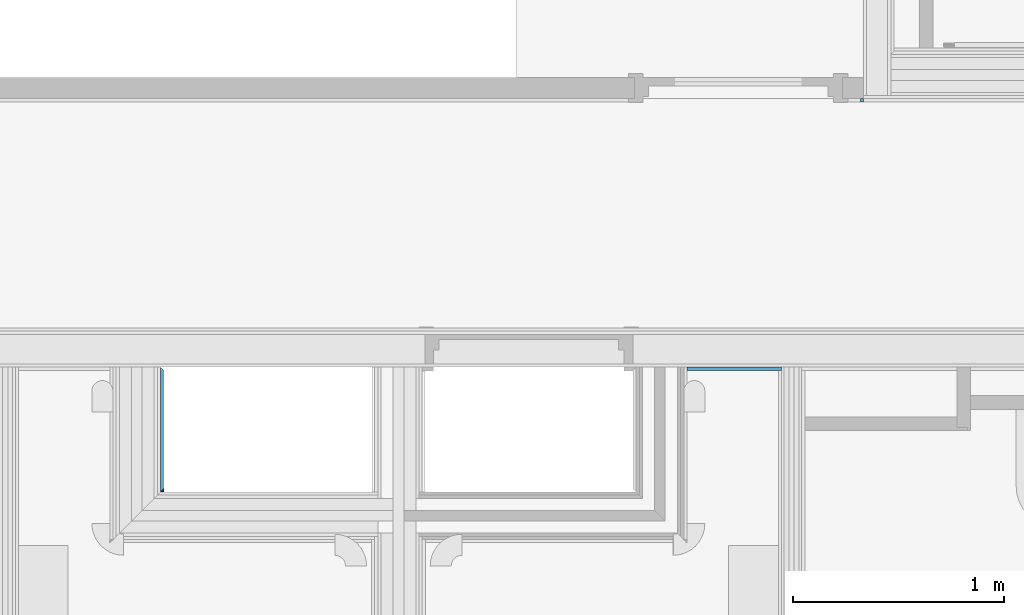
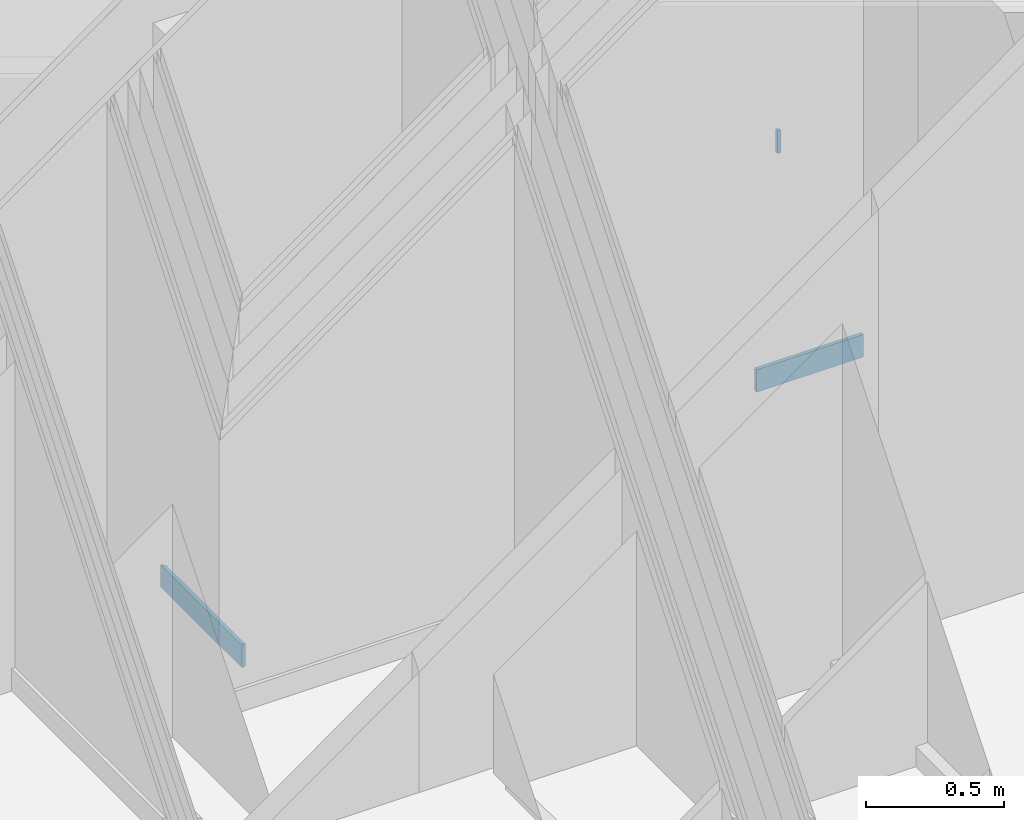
# One storey, part 31 of 85: 4 building element parts, 4 elements without a shape of their own.
"""IFC2X3 building model written with IfcOpenShell, lengths in metres."""

from ifc_helpers import new_model, entity, si_unit, converted_unit, derived_unit, money_unit, direction, frame, frame_2d, origin_with_axes, place, context, subcontext, project, spatial, polyline, rectangle, outline, extrude, material, type_object, element, aggregate, save


model = new_model("IFC2X3")

# Units and contexts
model_context = context("Model", 3, precision=1e-05, world=origin_with_axes(), true_north=direction((0.0, 1.0)))
body_context = subcontext(model_context, "Body", "Model", "MODEL_VIEW", scale=1.0)
ifc_project = project(units=[si_unit("LENGTHUNIT", "METRE"), si_unit("AREAUNIT", "SQUARE_METRE"), si_unit("VOLUMEUNIT", "CUBIC_METRE"), si_unit("ABSORBEDDOSEUNIT", "GRAY"), si_unit("AMOUNTOFSUBSTANCEUNIT", "MOLE"), si_unit("DOSEEQUIVALENTUNIT", "SIEVERT"), si_unit("ELECTRICCAPACITANCEUNIT", "FARAD"), si_unit("ELECTRICCHARGEUNIT", "COULOMB"), si_unit("ELECTRICCONDUCTANCEUNIT", "SIEMENS"), si_unit("ELECTRICCURRENTUNIT", "AMPERE"), si_unit("ELECTRICRESISTANCEUNIT", "OHM"), si_unit("ELECTRICVOLTAGEUNIT", "VOLT"), si_unit("ENERGYUNIT", "JOULE"), si_unit("FORCEUNIT", "NEWTON"), si_unit("FREQUENCYUNIT", "HERTZ"), si_unit("ILLUMINANCEUNIT", "LUX"), si_unit("INDUCTANCEUNIT", "HENRY"), si_unit("LUMINOUSFLUXUNIT", "LUMEN"), si_unit("LUMINOUSINTENSITYUNIT", "CANDELA"), si_unit("MAGNETICFLUXDENSITYUNIT", "TESLA"), si_unit("MAGNETICFLUXUNIT", "WEBER"), si_unit("MASSUNIT", "GRAM"), converted_unit("PLANEANGLEUNIT", "degree", entity("IfcReal", 0.0174532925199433), si_unit("PLANEANGLEUNIT", "RADIAN"), dimensions=[0, 0, 0, 0, 0, 0, 0]), si_unit("POWERUNIT", "WATT"), si_unit("PRESSUREUNIT", "PASCAL"), si_unit("RADIOACTIVITYUNIT", "BECQUEREL"), si_unit("SOLIDANGLEUNIT", "STERADIAN"), si_unit("THERMODYNAMICTEMPERATUREUNIT", "KELVIN"), si_unit("TIMEUNIT", "SECOND"), derived_unit("ACCELERATIONUNIT", [(si_unit("LENGTHUNIT", "METRE"), 1), (si_unit("TIMEUNIT", "SECOND"), -2)]), derived_unit("ANGULARVELOCITYUNIT", [(converted_unit("PLANEANGLEUNIT", "degree", entity("IfcReal", 0.0174532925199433), si_unit("PLANEANGLEUNIT", "RADIAN"), dimensions=[0, 0, 0, 0, 0, 0, 0]), 1), (si_unit("TIMEUNIT", "SECOND"), -1)]), derived_unit("CURVATUREUNIT", [(converted_unit("PLANEANGLEUNIT", "degree", entity("IfcReal", 0.0174532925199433), si_unit("PLANEANGLEUNIT", "RADIAN"), dimensions=[0, 0, 0, 0, 0, 0, 0]), 1), (si_unit("LENGTHUNIT", "METRE"), -1)]), derived_unit("DYNAMICVISCOSITYUNIT", [(si_unit("PRESSUREUNIT", "PASCAL"), 1), (si_unit("TIMEUNIT", "SECOND"), 1)]), derived_unit("HEATFLUXDENSITYUNIT", [(si_unit("POWERUNIT", "WATT"), 1), (si_unit("LENGTHUNIT", "METRE"), -2)]), derived_unit("HEATINGVALUEUNIT", [(si_unit("ENERGYUNIT", "JOULE"), 1), (si_unit("MASSUNIT", "GRAM"), -1)]), derived_unit("INTEGERCOUNTRATEUNIT", [(si_unit("TIMEUNIT", "SECOND"), -1)]), derived_unit("IONCONCENTRATIONUNIT", [(si_unit("MASSUNIT", "GRAM"), 1), (si_unit("VOLUMEUNIT", "CUBIC_METRE"), -1)]), derived_unit("ISOTHERMALMOISTURECAPACITYUNIT", [(si_unit("VOLUMEUNIT", "CUBIC_METRE"), 1), (si_unit("MASSUNIT", "GRAM"), -1)]), derived_unit("KINEMATICVISCOSITYUNIT", [(si_unit("AREAUNIT", "SQUARE_METRE"), 1), (si_unit("TIMEUNIT", "SECOND"), -1)]), derived_unit("LINEARFORCEUNIT", [(si_unit("FORCEUNIT", "NEWTON"), 1), (si_unit("LENGTHUNIT", "METRE"), -1)]), derived_unit("LINEARMOMENTUNIT", [(si_unit("FORCEUNIT", "NEWTON"), 1), (si_unit("LENGTHUNIT", "METRE"), -1)]), derived_unit("LINEARSTIFFNESSUNIT", [(si_unit("FORCEUNIT", "NEWTON"), 1), (si_unit("LENGTHUNIT", "METRE"), -1)]), derived_unit("LINEARVELOCITYUNIT", [(si_unit("LENGTHUNIT", "METRE"), 1), (si_unit("TIMEUNIT", "SECOND"), -1)]), derived_unit("LUMINOUSINTENSITYDISTRIBUTIONUNIT", [(si_unit("LUMINOUSINTENSITYUNIT", "CANDELA"), 1), (si_unit("LUMINOUSFLUXUNIT", "LUMEN"), -1)]), derived_unit("MASSDENSITYUNIT", [(si_unit("MASSUNIT", "GRAM"), 1), (si_unit("VOLUMEUNIT", "CUBIC_METRE"), -1)]), derived_unit("MASSFLOWRATEUNIT", [(si_unit("MASSUNIT", "GRAM"), 1), (si_unit("TIMEUNIT", "SECOND"), -1)]), derived_unit("MASSPERLENGTHUNIT", [(si_unit("MASSUNIT", "GRAM"), 1), (si_unit("LENGTHUNIT", "METRE"), -1)]), derived_unit("MODULUSOFELASTICITYUNIT", [(si_unit("FORCEUNIT", "NEWTON"), 1), (si_unit("AREAUNIT", "SQUARE_METRE"), -1)]), derived_unit("MODULUSOFLINEARSUBGRADEREACTIONUNIT", [(si_unit("FORCEUNIT", "NEWTON"), 1), (si_unit("LENGTHUNIT", "METRE"), -2)]), derived_unit("MODULUSOFROTATIONALSUBGRADEREACTIONUNIT", [(si_unit("FORCEUNIT", "NEWTON"), 1), (si_unit("LENGTHUNIT", "METRE"), 1)]), derived_unit("MODULUSOFSUBGRADEREACTIONUNIT", [(si_unit("FORCEUNIT", "NEWTON"), 1), (si_unit("VOLUMEUNIT", "CUBIC_METRE"), -1)]), derived_unit("MOISTUREDIFFUSIVITYUNIT", [(si_unit("VOLUMEUNIT", "CUBIC_METRE"), 1), (si_unit("TIMEUNIT", "SECOND"), -1)]), derived_unit("MOLECULARWEIGHTUNIT", [(si_unit("MASSUNIT", "GRAM"), 1), (si_unit("AMOUNTOFSUBSTANCEUNIT", "MOLE"), -1)]), derived_unit("PLANARFORCEUNIT", [(si_unit("FORCEUNIT", "NEWTON"), 1), (si_unit("LENGTHUNIT", "METRE"), -2)]), derived_unit("ROTATIONALFREQUENCYUNIT", [(si_unit("TIMEUNIT", "SECOND"), -1)]), derived_unit("ROTATIONALMASSUNIT", [(si_unit("MASSUNIT", "GRAM"), 1), (si_unit("LENGTHUNIT", "METRE"), 2)]), derived_unit("ROTATIONALSTIFFNESSUNIT", [(si_unit("FORCEUNIT", "NEWTON"), 1), (si_unit("LENGTHUNIT", "METRE"), 1), (converted_unit("PLANEANGLEUNIT", "degree", entity("IfcReal", 0.0174532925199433), si_unit("PLANEANGLEUNIT", "RADIAN"), dimensions=[0, 0, 0, 0, 0, 0, 0]), -1)]), derived_unit("SECTIONAREAINTEGRALUNIT", [(si_unit("LENGTHUNIT", "METRE"), 5)]), derived_unit("SECTIONMODULUSUNIT", [(si_unit("LENGTHUNIT", "METRE"), 3)]), derived_unit("SHEARMODULUSUNIT", [(si_unit("FORCEUNIT", "NEWTON"), 1), (si_unit("AREAUNIT", "SQUARE_METRE"), -1)]), derived_unit("SOUNDPOWERUNIT", [(si_unit("ENERGYUNIT", "JOULE"), 1), (si_unit("TIMEUNIT", "SECOND"), -1)]), derived_unit("SPECIFICHEATCAPACITYUNIT", [(si_unit("FORCEUNIT", "NEWTON"), 1), (si_unit("MASSUNIT", "GRAM"), -1), (si_unit("THERMODYNAMICTEMPERATUREUNIT", "KELVIN"), -1)]), derived_unit("TEMPERATUREGRADIENTUNIT", [(si_unit("THERMODYNAMICTEMPERATUREUNIT", "KELVIN"), 1), (si_unit("LENGTHUNIT", "METRE"), -1)]), derived_unit("THERMALADMITTANCEUNIT", [(si_unit("POWERUNIT", "WATT"), 1), (si_unit("AREAUNIT", "SQUARE_METRE"), -1), (si_unit("THERMODYNAMICTEMPERATUREUNIT", "KELVIN"), -1)]), derived_unit("THERMALCONDUCTANCEUNIT", [(si_unit("POWERUNIT", "WATT"), 1), (si_unit("LENGTHUNIT", "METRE"), -1), (si_unit("THERMODYNAMICTEMPERATUREUNIT", "KELVIN"), -1)]), derived_unit("THERMALEXPANSIONCOEFFICIENTUNIT", [(si_unit("THERMODYNAMICTEMPERATUREUNIT", "KELVIN"), -1)]), derived_unit("THERMALRESISTANCEUNIT", [(si_unit("AREAUNIT", "SQUARE_METRE"), 1), (si_unit("POWERUNIT", "WATT"), -1)]), derived_unit("THERMALTRANSMITTANCEUNIT", [(si_unit("POWERUNIT", "WATT"), 1), (si_unit("AREAUNIT", "SQUARE_METRE"), -1), (si_unit("THERMODYNAMICTEMPERATUREUNIT", "KELVIN"), -1)]), derived_unit("TORQUEUNIT", [(si_unit("FORCEUNIT", "NEWTON"), 1), (si_unit("LENGTHUNIT", "METRE"), 1)]), derived_unit("VAPORPERMEABILITYUNIT", [(si_unit("MASSUNIT", "GRAM"), 1), (si_unit("TIMEUNIT", "SECOND"), -1)]), derived_unit("VOLUMETRICFLOWRATEUNIT", [(si_unit("VOLUMEUNIT", "CUBIC_METRE"), 1), (si_unit("TIMEUNIT", "SECOND"), -1)]), derived_unit("WARPINGCONSTANTUNIT", [(si_unit("LENGTHUNIT", "METRE"), 6)]), derived_unit("WARPINGMOMENTUNIT", [(si_unit("FORCEUNIT", "NEWTON"), 1), (si_unit("LENGTHUNIT", "METRE"), 2)]), money_unit("GBP")], contexts=[model_context])

# Site, building, storey
site_placement = place(None, origin_with_axes())
site = spatial("IfcSite", under=ifc_project, at=site_placement, Name="Site", CompositionType="ELEMENT")
building_placement = place(site_placement, origin_with_axes())
building = spatial("IfcBuilding", under=site, at=building_placement, Name="Building01", CompositionType="ELEMENT")
storey_placement = place(building_placement, frame((0.0, 0.0, 12.13), z_axis=(0.0, 0.0, 1.0), x_axis=(1.0, 0.0, 0.0)))
storey = spatial("IfcBuildingStorey", under=building, at=storey_placement, Name="3F", CompositionType="ELEMENT", Elevation=12.13)

# Wall, building element part
wall_type_1 = type_object("IfcWallType", Name="SHE_A-Walls_Type01c_Partywall_225mm_twin_tall", PredefinedType="NOTDEFINED")
wall_1_placement = place(storey_placement, frame((12.288, 4.302428, 0.0), z_axis=(0.0, 0.0, 1.0), x_axis=(1.0, 0.0, 0.0)))
wall_1 = element("IfcWall", 1, at=wall_1_placement, inside=storey, type_object=wall_type_1, Name="1C", ObjectType="SHE_A-Walls_Type01c_Partywall_225mm_twin_tall")
ifc_material = material(Name="A_BSUK_Walls_Timber")
building_element_part_1_placement = place(wall_1_placement, origin_with_axes())
building_element_part_1 = element("IfcBuildingElementPart", 2, at=building_element_part_1_placement, material=ifc_material, Name="9", context=body_context, shape_type="SweptSolid", body=[
    extrude(outline(polyline([(0.102, 0.102), (0.087, 0.087), (0.102549, 0.087), (0.102549, 0.102), (0.102, 0.102)])), frame((0.0, 0.0, 0.015), z_axis=(0.0, 0.0, 1.0), x_axis=(1.0, 0.0, 0.0)), (0.0, 0.0, 1.0), 0.1),
])
aggregate(wall_1, [building_element_part_1])

wall_2_placement = place(storey_placement, frame((12.288, 4.98, 0.0), z_axis=(0.0, 0.0, 1.0), x_axis=(0.0, -1.0, 0.0)))
wall_2 = element("IfcWall", 3, at=wall_2_placement, inside=storey, type_object=wall_type_1, Name="1C", ObjectType="SHE_A-Walls_Type01c_Partywall_225mm_twin_tall")
building_element_part_2_placement = place(wall_2_placement, origin_with_axes())
building_element_part_2 = element("IfcBuildingElementPart", 4, at=building_element_part_2_placement, material=ifc_material, Name="10", context=body_context, shape_type="SweptSolid", body=[
    extrude(outline(polyline([(0.575572, 0.102), (0.015, 0.102), (0.0, 0.087), (0.590572, 0.087), (0.575572, 0.102)])), frame((0.0, 0.0, 0.015), z_axis=(0.0, 0.0, 1.0), x_axis=(1.0, 0.0, 0.0)), (0.0, 0.0, 1.0), 0.1),
])
aggregate(wall_2, [building_element_part_2])

wall_type_2 = type_object("IfcWallType", Name="SHE_A-Walls_Type04a_BlockworkWall_130mm", PredefinedType="NOTDEFINED")
wall_3_placement = place(storey_placement, frame((15.715, 8.665, 0.0), z_axis=(0.0, 0.0, 1.0), x_axis=(0.0, -1.0, 0.0)))
wall_3 = element("IfcWall", 5, at=wall_3_placement, inside=storey, type_object=wall_type_2, Name="4A", ObjectType="SHE_A-Walls_Type04a_BlockworkWall_130mm")
building_element_part_3_placement = place(wall_3_placement, origin_with_axes())
building_element_part_3 = element("IfcBuildingElementPart", 6, at=building_element_part_3_placement, material=ifc_material, Name="1", context=body_context, shape_type="SweptSolid", body=[
    extrude(rectangle(XDim=0.015, YDim=0.015, at=frame_2d((2.4225, -0.0225), x_axis=(0.0, -1.0))), frame((0.0, 0.0, 0.015), z_axis=(0.0, 0.0, 1.0), x_axis=(1.0, 0.0, 0.0)), (0.0, 0.0, 1.0), 0.1),
])
aggregate(wall_3, [building_element_part_3])

wall_type_3 = type_object("IfcWallType", Name="SHE_A-Walls_Type03a_BlockworkWall_170mm", PredefinedType="NOTDEFINED")
wall_4_placement = place(storey_placement, frame((9.215, 4.995, 0.0), z_axis=(0.0, 0.0, 1.0), x_axis=(1.0, 0.0, 0.0)))
wall_4 = element("IfcWall", 7, at=wall_4_placement, inside=storey, type_object=wall_type_3, Name="4B", ObjectType="SHE_A-Walls_Type03a_BlockworkWall_170mm")
building_element_part_4_placement = place(wall_4_placement, origin_with_axes())
building_element_part_4 = element("IfcBuildingElementPart", 8, at=building_element_part_4_placement, material=ifc_material, Name="2", context=body_context, shape_type="SweptSolid", body=[
    extrude(rectangle(XDim=0.4475, YDim=0.015, at=frame_2d((5.87375, -0.0225), x_axis=(-1.0, 0.0))), frame((0.0, 0.0, 0.015), z_axis=(0.0, 0.0, 1.0), x_axis=(1.0, 0.0, 0.0)), (0.0, 0.0, 1.0), 0.1),
])
aggregate(wall_4, [building_element_part_4])

save(model, "model.ifc")
